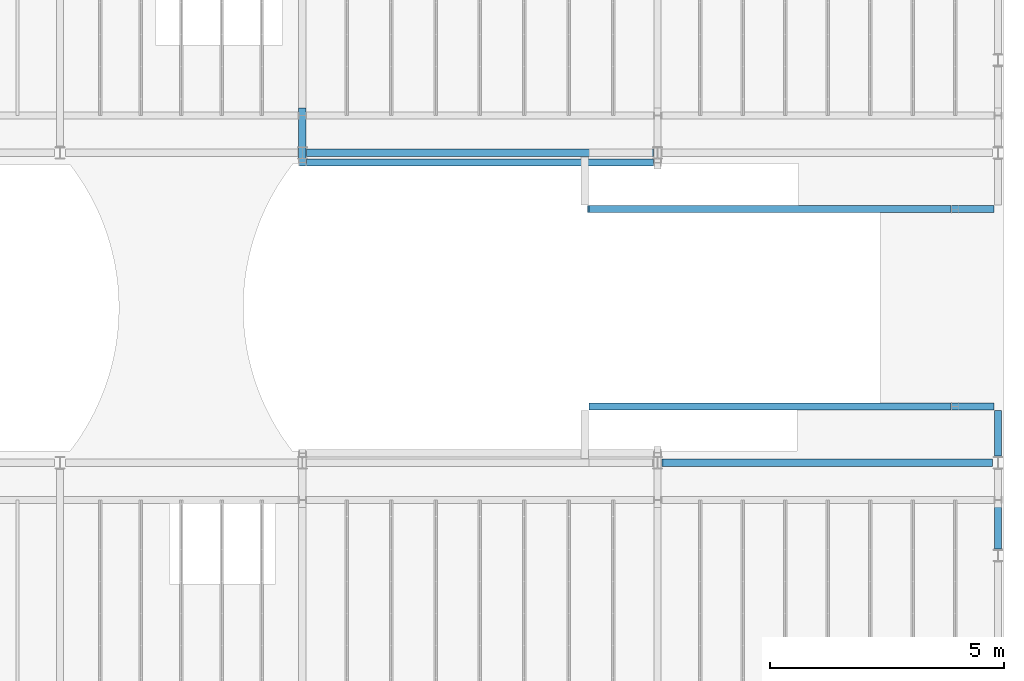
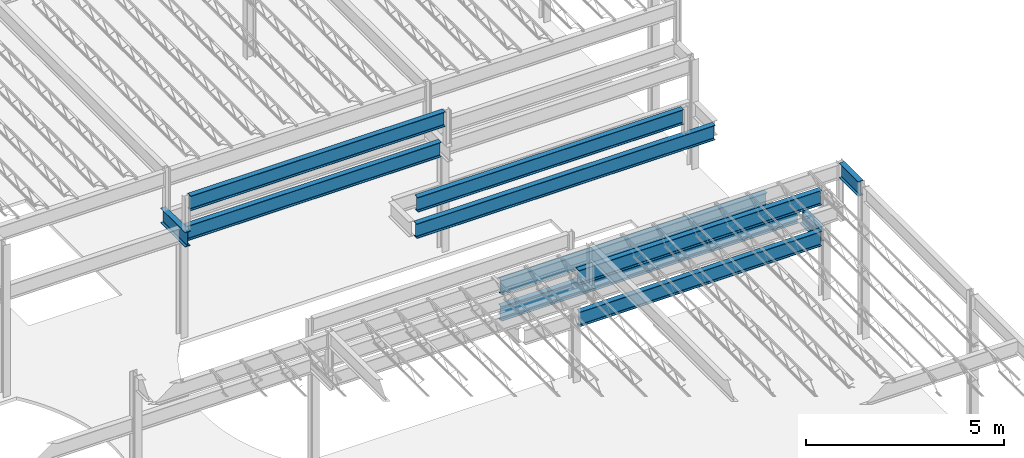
# One storey, part 14 of 119: 11 beams.
"""IFC2X3 building model written with IfcOpenShell, lengths in metres."""

from ifc_helpers import new_model, entity, si_unit, converted_unit, frame, frame_2d, origin, place, context, project, spatial, polyline, circle_curve, parameter, trimmed, segment, composite_curve, outline, extrude, material, element, save


model = new_model("IFC2X3")

# Units and contexts
model_context = context("Model", 3, precision=1e-09, world=origin())
plan_context = context("Plan", 3, precision=1e-09, world=origin())
ifc_project = project(units=[si_unit("LENGTHUNIT", "METRE"), si_unit("AREAUNIT", "SQUARE_METRE"), si_unit("VOLUMEUNIT", "CUBIC_METRE"), converted_unit("PLANEANGLEUNIT", "DEGREE", entity("IfcRatioMeasure", 0.01745329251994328), si_unit("PLANEANGLEUNIT", "RADIAN"), dimensions=[0, 0, 0, 0, 0, 0, 0]), si_unit("TIMEUNIT", "SECOND")], contexts=[model_context, plan_context])

# Site, building, storey
site_placement = place(None, origin())
site = spatial("IfcSite", under=ifc_project, at=site_placement, Name="Default", CompositionType="ELEMENT")
building_placement = place(site_placement, origin())
building = spatial("IfcBuilding", under=site, at=building_placement, CompositionType="ELEMENT")
storey_placement = place(building_placement, frame((0.0, 0.0, 4.570000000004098)))
storey = spatial("IfcBuildingStorey", under=building, at=storey_placement, Name="Second Floor", CompositionType="ELEMENT", Elevation=4.570000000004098)

# Beams
ifc_material = material(Name="Metal - Steel - 345 MPa")
beam_1_placement = place(storey_placement, frame((0.0, 27.45216041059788, 2.0715), z_axis=(0.0, 0.0, 1.0), x_axis=(-1.0, 0.0, 0.0)))
element("IfcBeam", 1, at=beam_1_placement, inside=storey, material=ifc_material, Name="M_W-Wide Flange:W460X60:W460X60", ObjectType="M_W-Wide Flange:W460X60", context=model_context, shape_type="SweptSolid", body=[
    extrude(outline(composite_curve([segment(polyline([(0.214199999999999, -0.07650000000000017), (0.2275000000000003, -0.07650000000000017)]), True, "CONTINUOUS"), segment(polyline([(0.2275000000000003, -0.07650000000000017), (0.2275000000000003, 0.07650000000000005)]), True, "CONTINUOUS"), segment(polyline([(0.2275000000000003, 0.07650000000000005), (0.214199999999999, 0.07650000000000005)]), True, "CONTINUOUS"), segment(polyline([(0.214199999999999, 0.07650000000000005), (0.214199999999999, 0.02169999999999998)]), True, "CONTINUOUS"), segment(trimmed(circle_curve(frame_2d((0.1964999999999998, 0.02169999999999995), x_axis=(0.0, 1.0)), 0.0177), [parameter(180.0)], [parameter(269.9999999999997)], True, "PARAMETER"), False, "CONTINUOUS"), segment(polyline([(0.1964999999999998, 0.003999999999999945), (-0.1965000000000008, 0.003999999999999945)]), True, "CONTINUOUS"), segment(trimmed(circle_curve(frame_2d((-0.1965000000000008, 0.02169999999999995), x_axis=(0.0, 1.0)), 0.0177), [parameter(90.00000000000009)], [parameter(179.9999999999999)], True, "PARAMETER"), False, "CONTINUOUS"), segment(polyline([(-0.2142000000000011, 0.02169999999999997), (-0.2142000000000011, 0.07650000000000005)]), True, "CONTINUOUS"), segment(polyline([(-0.2142000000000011, 0.07650000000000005), (-0.2275000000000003, 0.07650000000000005)]), True, "CONTINUOUS"), segment(polyline([(-0.2275000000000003, 0.07650000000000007), (-0.2275000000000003, -0.0764999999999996)]), True, "CONTINUOUS"), segment(polyline([(-0.2275000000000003, -0.0764999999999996), (-0.2142000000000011, -0.0764999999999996)]), True, "CONTINUOUS"), segment(polyline([(-0.2142000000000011, -0.0764999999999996), (-0.2142000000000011, -0.02170000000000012)]), True, "CONTINUOUS"), segment(trimmed(circle_curve(frame_2d((-0.1965000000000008, -0.02170000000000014), x_axis=(0.0, 1.0)), 0.0177), [parameter(359.9999999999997)], [parameter(89.99999999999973)], True, "PARAMETER"), False, "CONTINUOUS"), segment(polyline([(-0.1965000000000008, -0.004000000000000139), (0.1964999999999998, -0.004000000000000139)]), True, "CONTINUOUS"), segment(trimmed(circle_curve(frame_2d((0.1964999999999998, -0.02170000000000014), x_axis=(0.0, 1.0)), 0.0177), [parameter(269.9999999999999)], [parameter(0.0)], True, "PARAMETER"), False, "CONTINUOUS"), segment(polyline([(0.214199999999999, -0.02170000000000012), (0.214199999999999, -0.07650000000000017)]), True, "CONTINUOUS")], self_intersect=False)), frame((0.0, -1.069039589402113, -0.2275000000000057), z_axis=(0.0, -1.0, 0.0), x_axis=(0.0, 0.0, -1.0)), (0.0, 0.0, 1.0), 0.975100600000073),
])
beam_2_placement = place(storey_placement, frame((-8.347000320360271, 28.38000000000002, 2.073568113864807), z_axis=(-0.003676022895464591, 0.0, 0.9999932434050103), x_axis=(0.0, -1.0, 0.0)))
element("IfcBeam", 2, at=beam_2_placement, inside=storey, material=ifc_material, Name="M_W-Wide Flange:W460X60:W460X60", ObjectType="M_W-Wide Flange:W460X60", context=model_context, shape_type="SweptSolid", body=[
    extrude(outline(composite_curve([segment(polyline([(0.2142000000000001, -0.07649999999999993), (0.2275000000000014, -0.07649999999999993)]), True, "CONTINUOUS"), segment(polyline([(0.2275000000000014, -0.07649999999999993), (0.2275000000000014, 0.07649999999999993)]), True, "CONTINUOUS"), segment(polyline([(0.2275000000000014, 0.07649999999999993), (0.2142000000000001, 0.07649999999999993)]), True, "CONTINUOUS"), segment(polyline([(0.2142000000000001, 0.07649999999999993), (0.2142000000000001, 0.02169999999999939)]), True, "CONTINUOUS"), segment(trimmed(circle_curve(frame_2d((0.1964999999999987, 0.02170000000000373), x_axis=(0.0, 1.0)), 0.0177), [parameter(180.0)], [parameter(269.9999999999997)], True, "PARAMETER"), False, "CONTINUOUS"), segment(polyline([(0.1964999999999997, 0.003999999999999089), (-0.1964999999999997, 0.003999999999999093)]), True, "CONTINUOUS"), segment(trimmed(circle_curve(frame_2d((-0.1964999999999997, 0.02170000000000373), x_axis=(0.0, 1.0)), 0.0177), [parameter(90.00000000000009)], [parameter(179.9999999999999)], True, "PARAMETER"), False, "CONTINUOUS"), segment(polyline([(-0.2142, 0.0216999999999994), (-0.2142, 0.07649999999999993)]), True, "CONTINUOUS"), segment(polyline([(-0.2142, 0.07649999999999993), (-0.2275000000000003, 0.07649999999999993)]), True, "CONTINUOUS"), segment(polyline([(-0.2275000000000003, 0.07649999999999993), (-0.2275000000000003, -0.07649999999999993)]), True, "CONTINUOUS"), segment(polyline([(-0.2275000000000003, -0.07649999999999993), (-0.2142, -0.07649999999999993)]), True, "CONTINUOUS"), segment(polyline([(-0.2142, -0.07649999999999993), (-0.2142, -0.02169999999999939)]), True, "CONTINUOUS"), segment(trimmed(circle_curve(frame_2d((-0.1964999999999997, -0.02169999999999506), x_axis=(0.0, 1.0)), 0.0177), [parameter(359.9999999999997)], [parameter(89.99999999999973)], True, "PARAMETER"), False, "CONTINUOUS"), segment(polyline([(-0.1964999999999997, -0.003999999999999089), (0.1964999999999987, -0.003999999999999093)]), True, "CONTINUOUS"), segment(trimmed(circle_curve(frame_2d((0.1964999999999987, -0.02169999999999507), x_axis=(0.0, 1.0)), 0.0177), [parameter(269.9999999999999)], [parameter(0.0)], True, "PARAMETER"), False, "CONTINUOUS"), segment(polyline([(0.2142000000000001, -0.0216999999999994), (0.2142000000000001, -0.07649999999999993)]), True, "CONTINUOUS")], self_intersect=False)), frame((0.0, 1.181708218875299, -0.2275000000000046), z_axis=(0.0, 1.0, 0.0), x_axis=(0.0, 0.0, -1.0)), (0.0, 0.0, 1.0), 7.048975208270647),
])
beam_3_placement = place(storey_placement, frame((-7.277404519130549, 28.38000000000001, 3.366499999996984), z_axis=(0.0, 0.0, 1.0), x_axis=(0.0, -1.0, 0.0)))
element("IfcBeam", 3, at=beam_3_placement, inside=storey, material=ifc_material, Name="M_W-Wide Flange:W460X60:W460X60", ObjectType="M_W-Wide Flange:W460X60", context=model_context, shape_type="SweptSolid", body=[
    extrude(outline(composite_curve([segment(polyline([(0.2142000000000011, -0.07650000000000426), (0.2275000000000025, -0.07650000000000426)]), True, "CONTINUOUS"), segment(polyline([(0.2275000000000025, -0.07650000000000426), (0.2275000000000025, 0.0764999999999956)]), True, "CONTINUOUS"), segment(polyline([(0.2275000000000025, 0.0764999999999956), (0.2142000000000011, 0.0764999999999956)]), True, "CONTINUOUS"), segment(polyline([(0.2142000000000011, 0.0764999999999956), (0.2142000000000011, 0.02169999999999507)]), True, "CONTINUOUS"), segment(trimmed(circle_curve(frame_2d((0.1965000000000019, 0.0216999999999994), x_axis=(0.0, 1.0)), 0.0177), [parameter(180.0)], [parameter(269.9999999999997)], True, "PARAMETER"), False, "CONTINUOUS"), segment(polyline([(0.1965000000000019, 0.00399999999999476), (-0.1964999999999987, 0.00399999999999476)]), True, "CONTINUOUS"), segment(trimmed(circle_curve(frame_2d((-0.1964999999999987, 0.0216999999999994), x_axis=(0.0, 1.0)), 0.0177), [parameter(90.00000000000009)], [parameter(179.9999999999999)], True, "PARAMETER"), False, "CONTINUOUS"), segment(polyline([(-0.214199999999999, 0.02169999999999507), (-0.214199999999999, 0.0764999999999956)]), True, "CONTINUOUS"), segment(polyline([(-0.214199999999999, 0.0764999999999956), (-0.2274999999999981, 0.0764999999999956)]), True, "CONTINUOUS"), segment(polyline([(-0.2274999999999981, 0.0764999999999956), (-0.2274999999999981, -0.07650000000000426)]), True, "CONTINUOUS"), segment(polyline([(-0.2274999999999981, -0.07650000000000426), (-0.214199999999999, -0.07650000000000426)]), True, "CONTINUOUS"), segment(polyline([(-0.214199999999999, -0.07650000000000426), (-0.214199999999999, -0.02170000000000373)]), True, "CONTINUOUS"), segment(trimmed(circle_curve(frame_2d((-0.1964999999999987, -0.0216999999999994), x_axis=(0.0, 1.0)), 0.0177), [parameter(359.9999999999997)], [parameter(89.99999999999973)], True, "PARAMETER"), False, "CONTINUOUS"), segment(polyline([(-0.1964999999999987, -0.004000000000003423), (0.1965000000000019, -0.004000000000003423)]), True, "CONTINUOUS"), segment(trimmed(circle_curve(frame_2d((0.1965000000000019, -0.0216999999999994), x_axis=(0.0, 1.0)), 0.0177), [parameter(269.9999999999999)], [parameter(0.0)], True, "PARAMETER"), False, "CONTINUOUS"), segment(polyline([(0.2142000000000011, -0.02170000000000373), (0.2142000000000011, -0.07650000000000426)]), True, "CONTINUOUS")], self_intersect=False)), frame((0.0, 0.08661445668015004, -0.2275000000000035), z_axis=(0.0, 1.0, 0.0), x_axis=(0.0, 0.0, -1.0)), (0.0, 0.0, 1.0), 7.076090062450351),
])
beam_4_placement = place(storey_placement, frame((-1.55538432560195, 33.80407921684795, 2.874316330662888), z_axis=(0.0, 0.0, 1.0), x_axis=(0.0001258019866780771, 0.99999999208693, 0.0)))
element("IfcBeam", 4, at=beam_4_placement, inside=storey, material=ifc_material, Name="M_W-Wide Flange:W460X60:W460X60", ObjectType="M_W-Wide Flange:W460X60", context=model_context, shape_type="SweptSolid", body=[
    extrude(outline(composite_curve([segment(polyline([(0.2142, -0.0764999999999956), (0.2275000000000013, -0.0764999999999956)]), True, "CONTINUOUS"), segment(polyline([(0.2275000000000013, -0.0764999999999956), (0.2275000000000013, 0.0765000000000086)]), True, "CONTINUOUS"), segment(polyline([(0.2275000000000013, 0.0765000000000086), (0.2142, 0.0765000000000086)]), True, "CONTINUOUS"), segment(polyline([(0.2142, 0.0765000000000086), (0.2142, 0.02170000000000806)]), True, "CONTINUOUS"), segment(trimmed(circle_curve(frame_2d((0.1965000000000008, 0.02170000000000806), x_axis=(0.0, 1.0)), 0.0177), [parameter(180.0)], [parameter(269.9999999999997)], True, "PARAMETER"), False, "CONTINUOUS"), segment(polyline([(0.1965000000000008, 0.004000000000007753), (-0.1964999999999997, 0.004000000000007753)]), True, "CONTINUOUS"), segment(trimmed(circle_curve(frame_2d((-0.1964999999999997, 0.02170000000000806), x_axis=(0.0, 1.0)), 0.0177), [parameter(90.00000000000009)], [parameter(179.9999999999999)], True, "PARAMETER"), False, "CONTINUOUS"), segment(polyline([(-0.2142, 0.02170000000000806), (-0.2142, 0.0765000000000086)]), True, "CONTINUOUS"), segment(polyline([(-0.2142, 0.0765000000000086), (-0.2274999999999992, 0.0765000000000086)]), True, "CONTINUOUS"), segment(polyline([(-0.2274999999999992, 0.0765000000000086), (-0.2274999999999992, -0.0764999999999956)]), True, "CONTINUOUS"), segment(polyline([(-0.2274999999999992, -0.0764999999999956), (-0.2142, -0.0764999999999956)]), True, "CONTINUOUS"), segment(polyline([(-0.2142, -0.0764999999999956), (-0.2142, -0.02169999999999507)]), True, "CONTINUOUS"), segment(trimmed(circle_curve(frame_2d((-0.1964999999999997, -0.02169999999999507), x_axis=(0.0, 1.0)), 0.0177), [parameter(359.9999999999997)], [parameter(89.99999999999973)], True, "PARAMETER"), False, "CONTINUOUS"), segment(polyline([(-0.1964999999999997, -0.00399999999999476), (0.1965000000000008, -0.00399999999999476)]), True, "CONTINUOUS"), segment(trimmed(circle_curve(frame_2d((0.1965000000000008, -0.02169999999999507), x_axis=(0.0, 1.0)), 0.0177), [parameter(269.9999999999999)], [parameter(0.0)], True, "PARAMETER"), False, "CONTINUOUS"), segment(polyline([(0.2142, -0.02169999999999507), (0.2142, -0.0764999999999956)]), True, "CONTINUOUS")], self_intersect=False)), frame((0.0, 7.196098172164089, -0.2275000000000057), z_axis=(0.0, -1.0, 0.0), x_axis=(0.0, 0.0, -1.0)), (0.0, 0.0, 1.0), 7.741852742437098),
])
beam_5_placement = place(storey_placement, frame((-7.277404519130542, 29.58500059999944, 2.071499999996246), z_axis=(0.0, 0.0, 1.0), x_axis=(0.0, -1.0, 0.0)))
element("IfcBeam", 5, at=beam_5_placement, inside=storey, material=ifc_material, Name="M_W-Wide Flange:W460X60:W460X60", ObjectType="M_W-Wide Flange:W460X60", context=model_context, shape_type="SweptSolid", body=[
    extrude(outline(composite_curve([segment(polyline([(0.2142000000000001, -0.07649999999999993), (0.2275000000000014, -0.07649999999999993)]), True, "CONTINUOUS"), segment(polyline([(0.2275000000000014, -0.07649999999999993), (0.2275000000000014, 0.07649999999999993)]), True, "CONTINUOUS"), segment(polyline([(0.2275000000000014, 0.07649999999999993), (0.2142000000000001, 0.07649999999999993)]), True, "CONTINUOUS"), segment(polyline([(0.2142000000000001, 0.07649999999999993), (0.2142000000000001, 0.0216999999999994)]), True, "CONTINUOUS"), segment(trimmed(circle_curve(frame_2d((0.1965000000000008, 0.0216999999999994), x_axis=(0.0, 1.0)), 0.0177), [parameter(180.0)], [parameter(269.9999999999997)], True, "PARAMETER"), False, "CONTINUOUS"), segment(polyline([(0.1965000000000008, 0.003999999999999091), (-0.1964999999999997, 0.003999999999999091)]), True, "CONTINUOUS"), segment(trimmed(circle_curve(frame_2d((-0.1964999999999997, 0.0216999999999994), x_axis=(0.0, 1.0)), 0.0177), [parameter(90.00000000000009)], [parameter(179.9999999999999)], True, "PARAMETER"), False, "CONTINUOUS"), segment(polyline([(-0.2142, 0.0216999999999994), (-0.2142, 0.07649999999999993)]), True, "CONTINUOUS"), segment(polyline([(-0.2142, 0.07649999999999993), (-0.2274999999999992, 0.07649999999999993)]), True, "CONTINUOUS"), segment(polyline([(-0.2274999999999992, 0.07649999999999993), (-0.2274999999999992, -0.07649999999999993)]), True, "CONTINUOUS"), segment(polyline([(-0.2274999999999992, -0.07649999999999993), (-0.2142, -0.07649999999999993)]), True, "CONTINUOUS"), segment(polyline([(-0.2142, -0.07649999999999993), (-0.2142, -0.0216999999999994)]), True, "CONTINUOUS"), segment(trimmed(circle_curve(frame_2d((-0.1964999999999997, -0.0216999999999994), x_axis=(0.0, 1.0)), 0.0177), [parameter(359.9999999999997)], [parameter(89.99999999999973)], True, "PARAMETER"), False, "CONTINUOUS"), segment(polyline([(-0.1964999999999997, -0.003999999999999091), (0.1965000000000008, -0.003999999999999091)]), True, "CONTINUOUS"), segment(trimmed(circle_curve(frame_2d((0.1965000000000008, -0.0216999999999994), x_axis=(0.0, 1.0)), 0.0177), [parameter(269.9999999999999)], [parameter(0.0)], True, "PARAMETER"), False, "CONTINUOUS"), segment(polyline([(0.2142000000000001, -0.0216999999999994), (0.2142000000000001, -0.07649999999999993)]), True, "CONTINUOUS")], self_intersect=False)), frame((0.0, -1.47408748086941, -0.2275000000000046), z_axis=(0.0, 1.0, 0.0), x_axis=(0.0, 0.0, -1.0)), (0.0, 0.0, 1.0), 8.662697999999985),
])
beam_6_placement = place(storey_placement, frame((-1.555384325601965, 29.58592078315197, 2.874316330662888), z_axis=(0.0, 0.0, 1.0), x_axis=(-0.0001258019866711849, 0.99999999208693, 0.0)))
element("IfcBeam", 6, at=beam_6_placement, inside=storey, material=ifc_material, Name="M_W-Wide Flange:W460X60:W460X60", ObjectType="M_W-Wide Flange:W460X60", context=model_context, shape_type="SweptSolid", body=[
    extrude(outline(composite_curve([segment(polyline([(-0.07649999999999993, -0.2142), (-0.07649999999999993, -0.2275000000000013)]), True, "CONTINUOUS"), segment(polyline([(-0.07649999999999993, -0.2275000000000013), (0.07650000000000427, -0.2275000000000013)]), True, "CONTINUOUS"), segment(polyline([(0.07650000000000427, -0.2275000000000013), (0.07650000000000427, -0.2142)]), True, "CONTINUOUS"), segment(polyline([(0.07650000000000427, -0.2142), (0.02170000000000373, -0.2142)]), True, "CONTINUOUS"), segment(trimmed(circle_curve(frame_2d((0.02170000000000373, -0.1965000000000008), x_axis=(1.0, 0.0)), 0.0177), [parameter(180.0)], [parameter(269.9999999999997)], True, "PARAMETER"), False, "CONTINUOUS"), segment(polyline([(0.004000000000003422, -0.1965000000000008), (0.004000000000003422, 0.1964999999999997)]), True, "CONTINUOUS"), segment(trimmed(circle_curve(frame_2d((0.02170000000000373, 0.1964999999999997), x_axis=(1.0, 0.0)), 0.0177), [parameter(90.00000000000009)], [parameter(179.9999999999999)], True, "PARAMETER"), False, "CONTINUOUS"), segment(polyline([(0.02170000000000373, 0.2142), (0.07650000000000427, 0.2142)]), True, "CONTINUOUS"), segment(polyline([(0.07650000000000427, 0.2142), (0.07650000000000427, 0.2274999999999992)]), True, "CONTINUOUS"), segment(polyline([(0.07650000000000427, 0.2274999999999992), (-0.07649999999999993, 0.2274999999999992)]), True, "CONTINUOUS"), segment(polyline([(-0.07649999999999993, 0.2274999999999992), (-0.07649999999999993, 0.2142)]), True, "CONTINUOUS"), segment(polyline([(-0.07649999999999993, 0.2142), (-0.0216999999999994, 0.2142)]), True, "CONTINUOUS"), segment(trimmed(circle_curve(frame_2d((-0.0216999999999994, 0.1964999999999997), x_axis=(1.0, 0.0)), 0.0177), [parameter(359.9999999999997)], [parameter(89.99999999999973)], True, "PARAMETER"), False, "CONTINUOUS"), segment(polyline([(-0.003999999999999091, 0.1964999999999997), (-0.003999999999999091, -0.1965000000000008)]), True, "CONTINUOUS"), segment(trimmed(circle_curve(frame_2d((-0.0216999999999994, -0.1965000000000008), x_axis=(1.0, 0.0)), 0.0177), [parameter(269.9999999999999)], [parameter(0.0)], True, "PARAMETER"), False, "CONTINUOUS"), segment(polyline([(-0.0216999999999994, -0.2142), (-0.07649999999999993, -0.2142)]), True, "CONTINUOUS")], self_intersect=False)), frame((0.0, 7.196098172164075, -0.2275000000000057), z_axis=(0.0, 1.0, 0.0), x_axis=(-1.0, 0.0, 0.0)), (0.0, 0.0, -1.0), 7.741852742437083),
])
beam_7_placement = place(storey_placement, frame((-7.277404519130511, 35.00999999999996, 3.366499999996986), z_axis=(0.0, 0.0, 1.0), x_axis=(0.0, -1.0, 0.0)))
element("IfcBeam", 7, at=beam_7_placement, inside=storey, material=ifc_material, Name="M_W-Wide Flange:W460X60:W460X60", ObjectType="M_W-Wide Flange:W460X60", context=model_context, shape_type="SweptSolid", body=[
    extrude(outline(composite_curve([segment(polyline([(-0.0764999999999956, -0.214199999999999), (-0.0764999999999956, -0.2275000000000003)]), True, "CONTINUOUS"), segment(polyline([(-0.0764999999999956, -0.2275000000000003), (0.07650000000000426, -0.2275000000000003)]), True, "CONTINUOUS"), segment(polyline([(0.07650000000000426, -0.2275000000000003), (0.07650000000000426, -0.214199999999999)]), True, "CONTINUOUS"), segment(polyline([(0.07650000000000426, -0.214199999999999), (0.02170000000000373, -0.214199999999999)]), True, "CONTINUOUS"), segment(trimmed(circle_curve(frame_2d((0.0216999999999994, -0.1964999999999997), x_axis=(1.0, 0.0)), 0.0177), [parameter(180.0)], [parameter(269.9999999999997)], True, "PARAMETER"), False, "CONTINUOUS"), segment(polyline([(0.004000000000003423, -0.1964999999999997), (0.004000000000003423, 0.1965000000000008)]), True, "CONTINUOUS"), segment(trimmed(circle_curve(frame_2d((0.0216999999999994, 0.1965000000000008), x_axis=(1.0, 0.0)), 0.0177), [parameter(90.00000000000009)], [parameter(179.9999999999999)], True, "PARAMETER"), False, "CONTINUOUS"), segment(polyline([(0.02170000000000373, 0.2142000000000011), (0.07650000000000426, 0.2142000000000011)]), True, "CONTINUOUS"), segment(polyline([(0.07650000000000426, 0.2142000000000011), (0.07650000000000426, 0.2275000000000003)]), True, "CONTINUOUS"), segment(polyline([(0.07650000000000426, 0.2275000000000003), (-0.0764999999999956, 0.2275000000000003)]), True, "CONTINUOUS"), segment(polyline([(-0.0764999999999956, 0.2275000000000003), (-0.0764999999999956, 0.2142000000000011)]), True, "CONTINUOUS"), segment(polyline([(-0.0764999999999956, 0.2142000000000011), (-0.02169999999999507, 0.2142000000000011)]), True, "CONTINUOUS"), segment(trimmed(circle_curve(frame_2d((-0.0216999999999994, 0.1965000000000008), x_axis=(1.0, 0.0)), 0.0177), [parameter(359.9999999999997)], [parameter(89.99999999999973)], True, "PARAMETER"), False, "CONTINUOUS"), segment(polyline([(-0.00399999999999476, 0.1965000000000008), (-0.00399999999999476, -0.1964999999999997)]), True, "CONTINUOUS"), segment(trimmed(circle_curve(frame_2d((-0.0216999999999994, -0.1964999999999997), x_axis=(1.0, 0.0)), 0.0177), [parameter(269.9999999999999)], [parameter(0.0)], True, "PARAMETER"), False, "CONTINUOUS"), segment(polyline([(-0.02169999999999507, -0.214199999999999), (-0.0764999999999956, -0.214199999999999)]), True, "CONTINUOUS")], self_intersect=False)), frame((0.0, -7.513360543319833, -0.2275000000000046), z_axis=(0.0, -1.0, 0.0), x_axis=(1.0, 0.0, 0.0)), (0.0, 0.0, -1.0), 7.421574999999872),
])
beam_8_placement = place(storey_placement, frame((0.0, 26.40996384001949, 4.679999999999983)))
element("IfcBeam", 8, at=beam_8_placement, inside=storey, material=ifc_material, Name="M_W-Wide Flange:W460X60:W460X60", ObjectType="M_W-Wide Flange:W460X60", context=model_context, shape_type="SweptSolid", body=[
    extrude(outline(composite_curve([segment(polyline([(0.2142000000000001, -0.07650000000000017), (0.2275000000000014, -0.07650000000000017)]), True, "CONTINUOUS"), segment(polyline([(0.2275000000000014, -0.07650000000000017), (0.2275000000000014, 0.07650000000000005)]), True, "CONTINUOUS"), segment(polyline([(0.2275000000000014, 0.07650000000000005), (0.2142000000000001, 0.07650000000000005)]), True, "CONTINUOUS"), segment(polyline([(0.2142000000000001, 0.07650000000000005), (0.2142000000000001, 0.02169999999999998)]), True, "CONTINUOUS"), segment(trimmed(circle_curve(frame_2d((0.1965000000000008, 0.02169999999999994), x_axis=(0.0, 1.0)), 0.0177), [parameter(180.0)], [parameter(269.9999999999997)], True, "PARAMETER"), False, "CONTINUOUS"), segment(polyline([(0.1965000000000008, 0.003999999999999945), (-0.1964999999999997, 0.003999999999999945)]), True, "CONTINUOUS"), segment(trimmed(circle_curve(frame_2d((-0.1964999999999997, 0.02169999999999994), x_axis=(0.0, 1.0)), 0.0177), [parameter(90.00000000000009)], [parameter(179.9999999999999)], True, "PARAMETER"), False, "CONTINUOUS"), segment(polyline([(-0.2142, 0.02169999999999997), (-0.2142, 0.07650000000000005)]), True, "CONTINUOUS"), segment(polyline([(-0.2142, 0.07650000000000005), (-0.2274999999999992, 0.07650000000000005)]), True, "CONTINUOUS"), segment(polyline([(-0.2274999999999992, 0.07650000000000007), (-0.2274999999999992, -0.0764999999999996)]), True, "CONTINUOUS"), segment(polyline([(-0.2274999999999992, -0.0764999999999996), (-0.2142, -0.0764999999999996)]), True, "CONTINUOUS"), segment(polyline([(-0.2142, -0.0764999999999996), (-0.2142, -0.02170000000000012)]), True, "CONTINUOUS"), segment(trimmed(circle_curve(frame_2d((-0.1964999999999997, -0.02170000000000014), x_axis=(0.0, 1.0)), 0.0177), [parameter(359.9999999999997)], [parameter(89.99999999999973)], True, "PARAMETER"), False, "CONTINUOUS"), segment(polyline([(-0.1964999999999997, -0.004000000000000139), (0.1965000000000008, -0.004000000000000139)]), True, "CONTINUOUS"), segment(trimmed(circle_curve(frame_2d((0.1965000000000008, -0.02170000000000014), x_axis=(0.0, 1.0)), 0.0177), [parameter(269.9999999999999)], [parameter(0.0)], True, "PARAMETER"), False, "CONTINUOUS"), segment(polyline([(0.2142000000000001, -0.0217000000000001), (0.2142000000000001, -0.07650000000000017)]), True, "CONTINUOUS")], self_intersect=False)), frame((0.0, 0.1299913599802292, -0.2275000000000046), z_axis=(0.0, 1.0, 0.0), x_axis=(0.0, 0.0, -1.0)), (0.0, 0.0, 1.0), 0.9563448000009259),
])
beam_9_placement = place(storey_placement, frame((-14.87996506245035, 35.06464751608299, 3.366499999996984), z_axis=(0.0, 0.0, 1.0), x_axis=(-1.0, 0.0, 0.0)))
element("IfcBeam", 9, at=beam_9_placement, inside=storey, material=ifc_material, Name="M_W-Wide Flange:W460X60:W460X60", ObjectType="M_W-Wide Flange:W460X60", context=model_context, shape_type="SweptSolid", body=[
    extrude(outline(composite_curve([segment(polyline([(0.2141999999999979, -0.07650000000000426), (0.2274999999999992, -0.07650000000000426)]), True, "CONTINUOUS"), segment(polyline([(0.2274999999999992, -0.07650000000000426), (0.2274999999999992, 0.07649999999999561)]), True, "CONTINUOUS"), segment(polyline([(0.2274999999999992, 0.07649999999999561), (0.2141999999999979, 0.07649999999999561)]), True, "CONTINUOUS"), segment(polyline([(0.2141999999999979, 0.07649999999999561), (0.2141999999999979, 0.02169999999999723)]), True, "CONTINUOUS"), segment(trimmed(circle_curve(frame_2d((0.1964999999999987, 0.02169999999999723), x_axis=(0.0, 1.0)), 0.0177), [parameter(180.0)], [parameter(269.9999999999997)], True, "PARAMETER"), False, "CONTINUOUS"), segment(polyline([(0.1964999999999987, 0.003999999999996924), (-0.1965000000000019, 0.003999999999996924)]), True, "CONTINUOUS"), segment(trimmed(circle_curve(frame_2d((-0.1965000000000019, 0.02169999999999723), x_axis=(0.0, 1.0)), 0.0177), [parameter(90.00000000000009)], [parameter(179.9999999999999)], True, "PARAMETER"), False, "CONTINUOUS"), segment(polyline([(-0.2142000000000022, 0.02169999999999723), (-0.2142000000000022, 0.07649999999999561)]), True, "CONTINUOUS"), segment(polyline([(-0.2142000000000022, 0.07649999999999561), (-0.2275000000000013, 0.07649999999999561)]), True, "CONTINUOUS"), segment(polyline([(-0.2275000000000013, 0.07649999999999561), (-0.2275000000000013, -0.07650000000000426)]), True, "CONTINUOUS"), segment(polyline([(-0.2275000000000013, -0.07650000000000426), (-0.2142000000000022, -0.07650000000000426)]), True, "CONTINUOUS"), segment(polyline([(-0.2142000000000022, -0.07650000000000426), (-0.2142000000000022, -0.02170000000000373)]), True, "CONTINUOUS"), segment(trimmed(circle_curve(frame_2d((-0.1965000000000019, -0.02170000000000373), x_axis=(0.0, 1.0)), 0.0177), [parameter(359.9999999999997)], [parameter(89.99999999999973)], True, "PARAMETER"), False, "CONTINUOUS"), segment(polyline([(-0.1965000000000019, -0.004000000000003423), (0.1964999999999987, -0.004000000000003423)]), True, "CONTINUOUS"), segment(trimmed(circle_curve(frame_2d((0.1964999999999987, -0.02170000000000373), x_axis=(0.0, 1.0)), 0.0177), [parameter(269.9999999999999)], [parameter(0.0)], True, "PARAMETER"), False, "CONTINUOUS"), segment(polyline([(0.2141999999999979, -0.02170000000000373), (0.2141999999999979, -0.07650000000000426)]), True, "CONTINUOUS")], self_intersect=False)), frame((0.0, 0.3388459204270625, -0.2275000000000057), z_axis=(0.0, -1.0, 0.0), x_axis=(0.0, 0.0, -1.0)), (0.0, 0.0, 1.0), 1.239198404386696),
])
beam_10_placement = place(storey_placement, frame((-7.680241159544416, 34.8049999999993, 4.426476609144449), z_axis=(-2.134277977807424e-06, 0.0, 1.0), x_axis=(0.0, 1.0, 0.0)))
element("IfcBeam", 10, at=beam_10_placement, inside=storey, material=ifc_material, Name="M_W-Wide Flange:W460X60:W460X60", ObjectType="M_W-Wide Flange:W460X60", context=model_context, shape_type="SweptSolid", body=[
    extrude(outline(composite_curve([segment(polyline([(0.2142000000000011, -0.07649999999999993), (0.2275000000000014, -0.07649999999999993)]), True, "CONTINUOUS"), segment(polyline([(0.2275000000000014, -0.07649999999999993), (0.2275000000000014, 0.07649999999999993)]), True, "CONTINUOUS"), segment(polyline([(0.2275000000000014, 0.07649999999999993), (0.2142000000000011, 0.07649999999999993)]), True, "CONTINUOUS"), segment(polyline([(0.2142000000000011, 0.07649999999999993), (0.2142000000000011, 0.0216999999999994)]), True, "CONTINUOUS"), segment(trimmed(circle_curve(frame_2d((0.1965000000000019, 0.0216999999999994), x_axis=(0.0, 1.0)), 0.0177), [parameter(180.0)], [parameter(269.9999999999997)], True, "PARAMETER"), False, "CONTINUOUS"), segment(polyline([(0.1965000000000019, 0.003999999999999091), (-0.1964999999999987, 0.003999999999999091)]), True, "CONTINUOUS"), segment(trimmed(circle_curve(frame_2d((-0.1964999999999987, 0.0216999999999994), x_axis=(0.0, 1.0)), 0.0177), [parameter(90.00000000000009)], [parameter(179.9999999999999)], True, "PARAMETER"), False, "CONTINUOUS"), segment(polyline([(-0.2141999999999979, 0.0216999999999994), (-0.2141999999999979, 0.07649999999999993)]), True, "CONTINUOUS"), segment(polyline([(-0.2141999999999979, 0.07649999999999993), (-0.2274999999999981, 0.07649999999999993)]), True, "CONTINUOUS"), segment(polyline([(-0.2274999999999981, 0.07649999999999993), (-0.2274999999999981, -0.07649999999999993)]), True, "CONTINUOUS"), segment(polyline([(-0.2274999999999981, -0.07649999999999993), (-0.2141999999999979, -0.07649999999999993)]), True, "CONTINUOUS"), segment(polyline([(-0.2141999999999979, -0.07649999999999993), (-0.2141999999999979, -0.0216999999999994)]), True, "CONTINUOUS"), segment(trimmed(circle_curve(frame_2d((-0.1964999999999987, -0.0216999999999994), x_axis=(0.0, 1.0)), 0.0177), [parameter(359.9999999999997)], [parameter(89.99999999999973)], True, "PARAMETER"), False, "CONTINUOUS"), segment(polyline([(-0.1964999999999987, -0.003999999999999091), (0.1965000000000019, -0.003999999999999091)]), True, "CONTINUOUS"), segment(trimmed(circle_curve(frame_2d((0.1965000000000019, -0.0216999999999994), x_axis=(0.0, 1.0)), 0.0177), [parameter(269.9999999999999)], [parameter(0.0)], True, "PARAMETER"), False, "CONTINUOUS"), segment(polyline([(0.2142000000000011, -0.0216999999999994), (0.2142000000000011, -0.07649999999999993)]), True, "CONTINUOUS")], self_intersect=False)), frame((0.0, 7.111033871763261, -0.2275000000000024), z_axis=(0.0, -1.0, 0.0), x_axis=(0.0, 0.0, -1.0)), (0.0, 0.0, 1.0), 7.422582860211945),
])
beam_11_placement = place(storey_placement, frame((-7.277404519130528, 33.80499940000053, 2.071499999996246), z_axis=(0.0, 0.0, 1.0), x_axis=(0.0, -1.0, 0.0)))
element("IfcBeam", 11, at=beam_11_placement, inside=storey, material=ifc_material, Name="M_W-Wide Flange:W460X60:W460X60", ObjectType="M_W-Wide Flange:W460X60", context=model_context, shape_type="SweptSolid", body=[
    extrude(outline(composite_curve([segment(polyline([(-0.07650000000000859, -0.214199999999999), (-0.07650000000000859, -0.2275000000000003)]), True, "CONTINUOUS"), segment(polyline([(-0.07650000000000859, -0.2275000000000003), (0.07649999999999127, -0.2275000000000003)]), True, "CONTINUOUS"), segment(polyline([(0.07649999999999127, -0.2275000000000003), (0.07649999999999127, -0.214199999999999)]), True, "CONTINUOUS"), segment(polyline([(0.07649999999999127, -0.214199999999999), (0.02169999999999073, -0.214199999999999)]), True, "CONTINUOUS"), segment(trimmed(circle_curve(frame_2d((0.02169999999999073, -0.1964999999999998), x_axis=(1.0, 0.0)), 0.0177), [parameter(180.0)], [parameter(269.9999999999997)], True, "PARAMETER"), False, "CONTINUOUS"), segment(polyline([(0.003999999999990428, -0.1964999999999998), (0.003999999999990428, 0.1965000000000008)]), True, "CONTINUOUS"), segment(trimmed(circle_curve(frame_2d((0.02169999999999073, 0.1965000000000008), x_axis=(1.0, 0.0)), 0.0177), [parameter(90.00000000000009)], [parameter(179.9999999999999)], True, "PARAMETER"), False, "CONTINUOUS"), segment(polyline([(0.02169999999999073, 0.2142000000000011), (0.07649999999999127, 0.2142000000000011)]), True, "CONTINUOUS"), segment(polyline([(0.07649999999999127, 0.2142000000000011), (0.07649999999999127, 0.2275000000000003)]), True, "CONTINUOUS"), segment(polyline([(0.07649999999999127, 0.2275000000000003), (-0.07650000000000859, 0.2275000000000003)]), True, "CONTINUOUS"), segment(polyline([(-0.07650000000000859, 0.2275000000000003), (-0.07650000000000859, 0.2142000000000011)]), True, "CONTINUOUS"), segment(polyline([(-0.07650000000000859, 0.2142000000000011), (-0.02170000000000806, 0.2142000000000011)]), True, "CONTINUOUS"), segment(trimmed(circle_curve(frame_2d((-0.02170000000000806, 0.1965000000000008), x_axis=(1.0, 0.0)), 0.0177), [parameter(359.9999999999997)], [parameter(89.99999999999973)], True, "PARAMETER"), False, "CONTINUOUS"), segment(polyline([(-0.004000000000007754, 0.1965000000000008), (-0.004000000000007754, -0.1964999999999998)]), True, "CONTINUOUS"), segment(trimmed(circle_curve(frame_2d((-0.02170000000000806, -0.1964999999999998), x_axis=(1.0, 0.0)), 0.0177), [parameter(269.9999999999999)], [parameter(0.0)], True, "PARAMETER"), False, "CONTINUOUS"), segment(polyline([(-0.02170000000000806, -0.214199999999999), (-0.07650000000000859, -0.214199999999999)]), True, "CONTINUOUS")], self_intersect=False)), frame((0.0, -1.503815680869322, -0.2275000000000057), z_axis=(0.0, -1.0, 0.0), x_axis=(1.0, 0.0, 0.0)), (0.0, 0.0, -1.0), 8.692426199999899),
])

save(model, "model.ifc")
